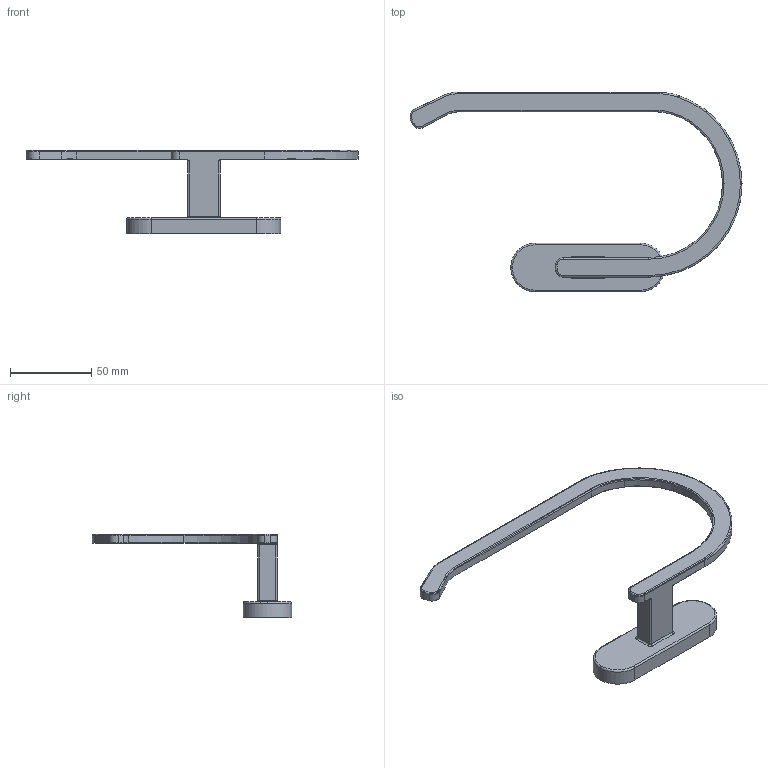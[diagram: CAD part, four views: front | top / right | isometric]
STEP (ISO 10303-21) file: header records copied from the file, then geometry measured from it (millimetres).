
FILE_DESCRIPTION (( 'STEP AP203' ), '1' );
FILE_NAME ('PL18805-yuvarlak havluluk.STEP', '2018-08-27T10:47:32', ( '' ), ( '' ), 'SwSTEP 2.0', 'SolidWorks 2018', '' );
FILE_SCHEMA (( 'CONFIG_CONTROL_DESIGN' ));
Length unit declared in the file: millimetre
Products named in the file (1): PL18805-yuvarlak havluluk
Bounding box: 204.72 x 123.07 x 51.73 mm (x, y, z)
Volume: 9242.5 mm3; surface area: 37427 mm2
Topology: 1 solids, 1 shells, 128 faces, 317 edges, 194 vertices
Faces by surface type: cylinder 63, torus 36, plane 29
Entity records: 3956 total; most frequent: DIRECTION 741, CARTESIAN_POINT 716, ORIENTED_EDGE 634, EDGE_CURVE 317, AXIS2_PLACEMENT_3D 303, VERTEX_POINT 194, CIRCLE 174, LINE 135
